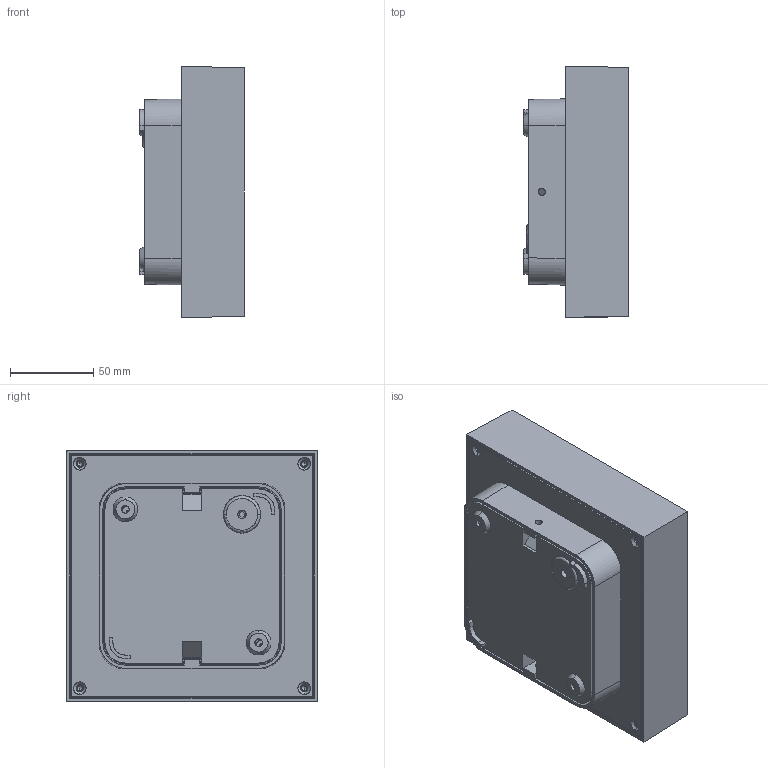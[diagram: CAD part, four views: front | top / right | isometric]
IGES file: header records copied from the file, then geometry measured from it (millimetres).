
Start section: SolidWorks IGES file using analytic representation for surfaces
Global section: file name: \\srvficheros\grupos\DISENYO\DESARROLLO DE PRODUCTO\_3D_WEB\NEXUS-P2083071\NEXUS-P2083071.IGS; native system: SolidWorks 2025; preprocessor: SolidWorks 2025; author: d.pons; date: 260115.071736; units: millimetre
Bounding box: 63 x 150.65 x 150.65 mm (x, y, z)
Surface area: 251427.4 mm2 (no closed solid volume)
Topology: 0 solids, 0 shells, 454 faces, 5508 edges, 5498 vertices
Faces by surface type: bspline 280, revolution 174
